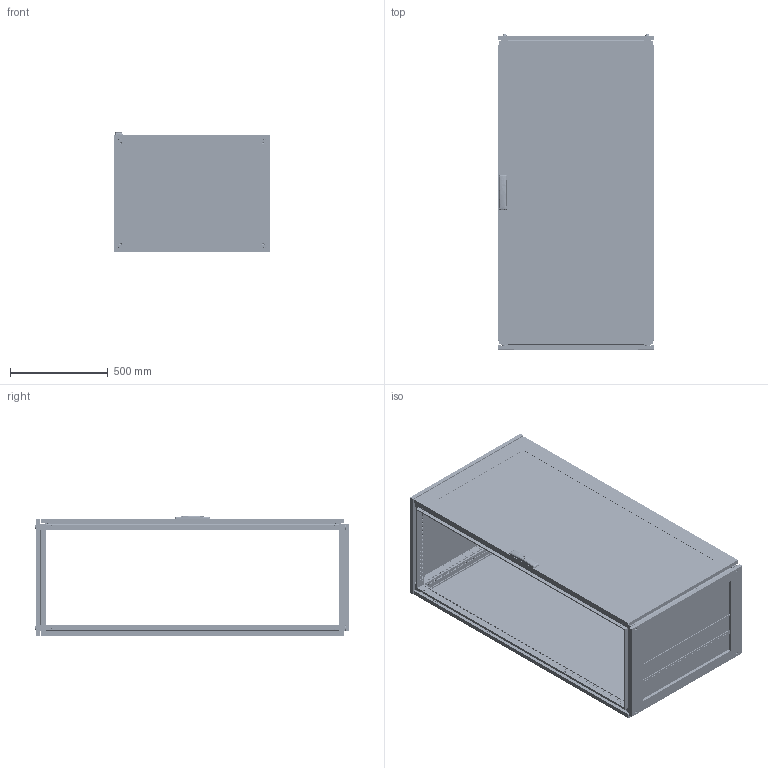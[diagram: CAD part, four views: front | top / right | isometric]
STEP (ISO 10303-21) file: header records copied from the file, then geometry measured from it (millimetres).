
FILE_DESCRIPTION (( 'STEP AP203' ), '1' );
FILE_NAME ('R5CQEN1686AX.STEP', '2025-05-07T11:51:37', ( '' ), ( '' ), 'SwSTEP 2.0', 'SolidWorks 2022', '' );
FILE_SCHEMA (( 'CONFIG_CONTROL_DESIGN' ));
Length unit declared in the file: millimetre
Products named in the file (66): RB.2172.00.00.1 simple; R5CQEN1686AX; M8x12 AC00C476 cl.8,8 Zinc_stright; RB.0562.00.00.0 СБ simple_-10; TPA.08.0139.00.03.0; 4.8x13 DIN 7981 PH Zinc_straight; RB.1867.01.01.0 simple_-13; RB.2685.00.00.0 simple_-02; 7 DIN 6799 Zinc; M6x10 DIN 7500 E HX cl.5.8 Zinc_straight; M6x15 Erickson cl.4,8 Zinc; RB.0528.04.01.0 simple; RB.2457.00.00.0 СБ simple_-20; PF 7,5x15 CPE simple_1600x0800; RB.1633.00.01.0 simple_-03; PF 7x14 CRE simple_1600x0800; PF 5x10 KTB simple_800x600; RB.0528.00.01.0 simple_-03; RB.1957.00.00.0 simple_-11; TPA.08.0139.00.01.0 simple; RB.0562.01.00.0 СБ simple_-10; RB.2357.00.00.0 simple_-05; RB.2686.00.00.0 simple; RB.2696.00.00.0 simple; R5NCRE-Assem simple_R5NCRE1680; RB.2455.00.00.0 simple_-03; RB.2968.00.00.0 simple; RB.2528.00.00.0 simple_-03; Glue CPTE simple_1600x0800; RB.2680.00.00.0 СБ simple; RB.2702.00.00.0 simple; RB.2969.00.01.0 simple; RB.1633.00.02.0 simple_-02; RB.1867.01.00.0 СБ simple_-28 ; R5NCPTE - Assem simple_R5NCPTE1680; RB.0562.01.01.0 simple_-10; Pin 4x16 DIN 7 AISI 303 (A1) simple; Square cap 20x20 simple; TPA.08.0084.00.00.0 simple; Pressing stud FH-M6-12_M6x12mm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
Assembly tree (173 placements, depth 5):
  R5CQEN1686AX
    R5NCPTE - Assem simple_R5NCPTE1680
      RB.0562.00.00.0 СБ simple_-10
        RB.0562.01.00.0 СБ simple_-10
          RB.0562.01.01.0 simple_-10
          М6х12 A5100231_straight  x7
          RB.2702.00.00.0 simple  x4
          PF 7,5x15 CPE simple_1600x0800
          Glass CPTE_1600x0800
          Glue CPTE simple_1600x0800
        Square cap 20x20 simple  x2
        M6x15 Erickson cl.4,8 Zinc  x2
        RB.0528.00.01.0 simple_-03  x2
        ATOS Traction guide ILY03.35  x4
        RB.2357.00.00.0 simple_-05
        RB.2680.00.00.0 СБ simple
          TPA.08.0139.00.01.0 simple
          RB.2680.00.01.0 simple
          RB.2680.00.02.0 simple  x2
        TPA.08.0139.00.03.0  x2
        M6 DIN 985 cl.6,0 Zinc_straight  x4
        4,0x16 F Torx Zinc (ART 88200)_thread  x2
        RB.0528.04.00.0 СБ simple  x2
          RB.0528.04.01.0 simple
          Pressing stud FH-M6-12_M6x12mm
      M6x10 DIN 912 HX cl.8,8 Zinc_straight  x8
      4.8x13 DIN 7981 PH Zinc_straight
      7 DIN 6799 Zinc simple  x4
      RB.2968.00.00.0 simple  x4
      RB.2969.00.00.0 СБ simple  x4
        RB.2969.00.01.0 simple
        Pin 4x16 DIN 7 AISI 303 (A1) simple
        M6 MGR-MKO-0625 simple_Thread
      AC00C446-R
      RB.2696.00.00.0 simple  x4
      7 DIN 6799 Zinc  x4
    R5NCRE-Assem simple_R5NCRE1680
      RB.2052.00.00.0 СБ simple_-12
        RB.2052.01.00.0 СБ simple_-12
          RB.0054.01.01.0 simple_-12
          М6х12 A5100231_straight  x4
        PF 7x14 CRE simple_1600x0800
      RB.2172.00.00.1 simple  x8
      M6x10 DIN 7500 E HX cl.5.8 Zinc_straight  x8
      M6x10 DIN 7500 M Torx cl.5.8 Zinc_straight  x8
    R5NKMN - Assem simple_R5NKMN16 (800х600)
      RB.2528.00.00.0 simple_-03  x4
    R5NKTB - Assem simple_H=1600 R5NKTB86
      RB.2499.00.00.0 СБ simple_-20
        RB.2499.01.00.0 СБ simple_-19
          RB.1633.00.01.0 simple_-03  x2
          RB.1633.00.02.0 simple_-02  x2
          PF 5x10 KTB simple_800x600
        RB.2457.00.00.0 СБ simple_-20
          RB.2455.00.00.0 simple_-03  x2
          RB.2456.00.00.0 simple_-02  x2
          TPA.08.0084.00.00.0 simple  x2
          TPA.08.0083.00.00.0 simple  x2
          M8x12 AC00C476 cl.8,8 Zinc_stright  x4
        RB.1957.00.00.0 simple_-10  x2
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Bounding box: 800 x 1613.3 x 614.74 mm (x, y, z)
Volume: 15512158.5 mm3; surface area: 13547814.5 mm2
Topology: 176 solids, 192 shells, 21153 faces, 59883 edges, 39403 vertices
Faces by surface type: plane 11811, cylinder 7801, cone 704, bspline 435, torus 368, sphere 34
Entity records: 214848 total; most frequent: CARTESIAN_POINT 53689, ORIENTED_EDGE 31862, DIRECTION 30357, EDGE_CURVE 15957, VERTEX_POINT 10558, AXIS2_PLACEMENT_3D 10201, LINE 9955, VECTOR 9955
